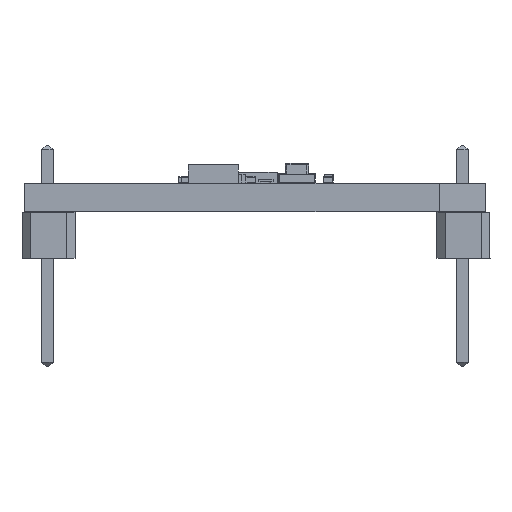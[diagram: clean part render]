
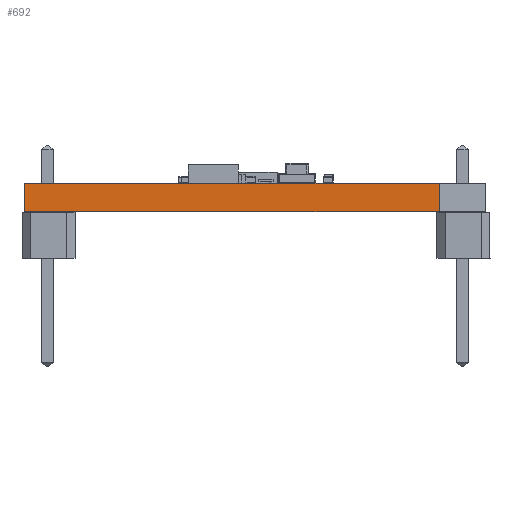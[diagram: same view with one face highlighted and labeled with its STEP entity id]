
A CAD part, front view. The second image highlights one B-rep face of the part: STEP entity #692.
In plain terms, the highlighted planar face has unit normal (0, -1, 0).
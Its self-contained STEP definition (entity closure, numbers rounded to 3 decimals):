
#667 = VERTEX_POINT('',#668);
#668 = CARTESIAN_POINT('',(21.59,-3.81,0.));
#674 = EDGE_CURVE('',#675,#667,#677,.T.);
#675 = VERTEX_POINT('',#676);
#676 = CARTESIAN_POINT('',(21.59,-3.81,-1.59));
#677 = LINE('',#678,#679);
#678 = CARTESIAN_POINT('',(21.59,-3.81,-1.59));
#679 = VECTOR('',#680,1.);
#680 = DIRECTION('',(0.,0.,1.));
#692 = ADVANCED_FACE('',(#693),#718,.T.);
#693 = FACE_BOUND('',#694,.T.);
#694 = EDGE_LOOP('',(#695,#696,#704,#712));
#695 = ORIENTED_EDGE('',*,*,#674,.T.);
#696 = ORIENTED_EDGE('',*,*,#697,.T.);
#697 = EDGE_CURVE('',#667,#698,#700,.T.);
#698 = VERTEX_POINT('',#699);
#699 = CARTESIAN_POINT('',(-1.27,-3.81,0.));
#700 = LINE('',#701,#702);
#701 = CARTESIAN_POINT('',(21.59,-3.81,0.));
#702 = VECTOR('',#703,1.);
#703 = DIRECTION('',(-1.,0.,0.));
#704 = ORIENTED_EDGE('',*,*,#705,.F.);
#705 = EDGE_CURVE('',#706,#698,#708,.T.);
#706 = VERTEX_POINT('',#707);
#707 = CARTESIAN_POINT('',(-1.27,-3.81,-1.59));
#708 = LINE('',#709,#710);
#709 = CARTESIAN_POINT('',(-1.27,-3.81,-1.59));
#710 = VECTOR('',#711,1.);
#711 = DIRECTION('',(0.,0.,1.));
#712 = ORIENTED_EDGE('',*,*,#713,.F.);
#713 = EDGE_CURVE('',#675,#706,#714,.T.);
#714 = LINE('',#715,#716);
#715 = CARTESIAN_POINT('',(21.59,-3.81,-1.59));
#716 = VECTOR('',#717,1.);
#717 = DIRECTION('',(-1.,0.,0.));
#718 = PLANE('',#719);
#719 = AXIS2_PLACEMENT_3D('',#720,#721,#722);
#720 = CARTESIAN_POINT('',(21.59,-3.81,-1.59));
#721 = DIRECTION('',(0.,-1.,0.));
#722 = DIRECTION('',(-1.,0.,0.));
